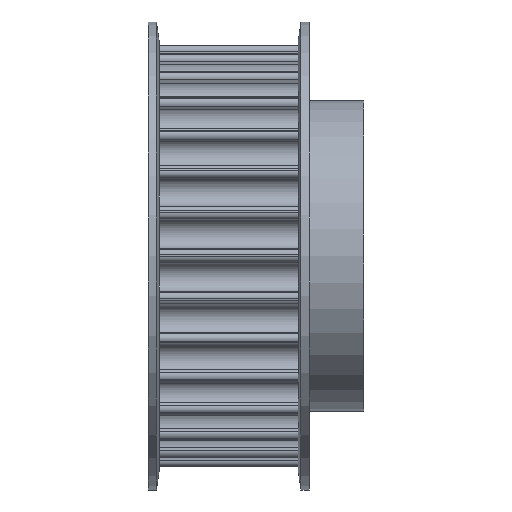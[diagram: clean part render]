
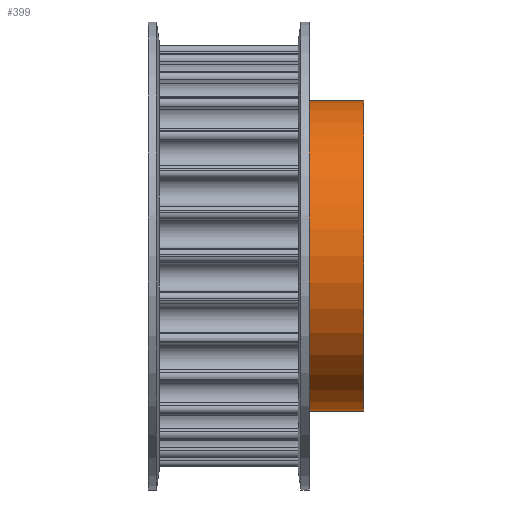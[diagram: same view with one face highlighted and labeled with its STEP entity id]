
A CAD part, top view. The second image highlights one B-rep face of the part: STEP entity #399.
In plain terms, the highlighted cylindrical face has radius 27.5 mm (diameter 55 mm), a partial arc.
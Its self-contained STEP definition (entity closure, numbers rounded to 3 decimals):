
#399 = ADVANCED_FACE( '', ( #1057 ), #1058, .T. );
#1057 = FACE_OUTER_BOUND( '', #1718, .T. );
#1058 = CYLINDRICAL_SURFACE( '', #1719, 27.5 );
#1718 = EDGE_LOOP( '', ( #5011, #5012, #5013, #5014 ) );
#1719 = AXIS2_PLACEMENT_3D( '', #5015, #5016, #5017 );
#5011 = ORIENTED_EDGE( '', *, *, #5090, .T. );
#5012 = ORIENTED_EDGE( '', *, *, #6019, .F. );
#5013 = ORIENTED_EDGE( '', *, *, #5092, .T. );
#5014 = ORIENTED_EDGE( '', *, *, #6281, .T. );
#5015 = CARTESIAN_POINT( '', ( 33., 0., 0. ) );
#5016 = DIRECTION( '', ( 1., 0., 0. ) );
#5017 = DIRECTION( '', ( 0., 1., 0. ) );
#5090 = EDGE_CURVE( '', #6282, #6283, #6284, .T. );
#5092 = EDGE_CURVE( '', #6287, #6285, #6288, .T. );
#6019 = EDGE_CURVE( '', #6287, #6283, #7963, .T. );
#6281 = EDGE_CURVE( '', #6285, #6282, #8225, .T. );
#6282 = VERTEX_POINT( '', #8226 );
#6283 = VERTEX_POINT( '', #8227 );
#6284 = LINE( '', #8228, #8229 );
#6285 = VERTEX_POINT( '', #8230 );
#6287 = VERTEX_POINT( '', #8232 );
#6288 = LINE( '', #8233, #8234 );
#7963 = CIRCLE( '', #10235, 27.5 );
#8225 = CIRCLE( '', #10729, 27.5 );
#8226 = CARTESIAN_POINT( '', ( 38., 27.5, 0. ) );
#8227 = CARTESIAN_POINT( '', ( 28., 27.5, 0. ) );
#8228 = CARTESIAN_POINT( '', ( 33., 27.5, 0. ) );
#8229 = VECTOR( '', #10730, 1. );
#8230 = CARTESIAN_POINT( '', ( 38., -27.5, 0. ) );
#8232 = CARTESIAN_POINT( '', ( 28., -27.5, 0. ) );
#8233 = CARTESIAN_POINT( '', ( 33., -27.5, 0. ) );
#8234 = VECTOR( '', #10734, 1. );
#10235 = AXIS2_PLACEMENT_3D( '', #12861, #12862, #12863 );
#10729 = AXIS2_PLACEMENT_3D( '', #13183, #13184, #13185 );
#10730 = DIRECTION( '', ( -1., 0., 0. ) );
#10734 = DIRECTION( '', ( 1., 0., 0. ) );
#12861 = CARTESIAN_POINT( '', ( 28., 0., 0. ) );
#12862 = DIRECTION( '', ( -1., 0., 0. ) );
#12863 = DIRECTION( '', ( 0., 1., 0. ) );
#13183 = CARTESIAN_POINT( '', ( 38., 0., 0. ) );
#13184 = DIRECTION( '', ( -1., 0., 0. ) );
#13185 = DIRECTION( '', ( 0., 1., 0. ) );
